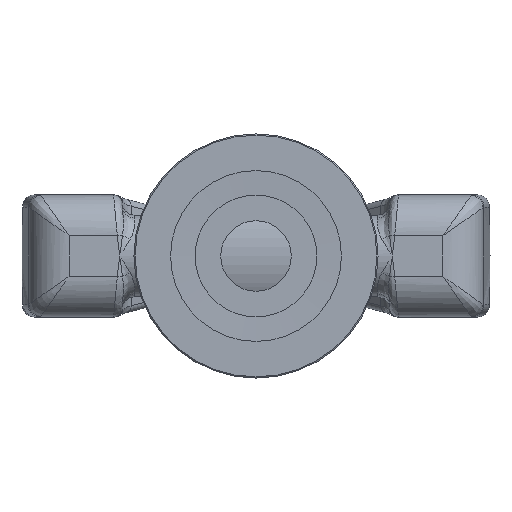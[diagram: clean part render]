
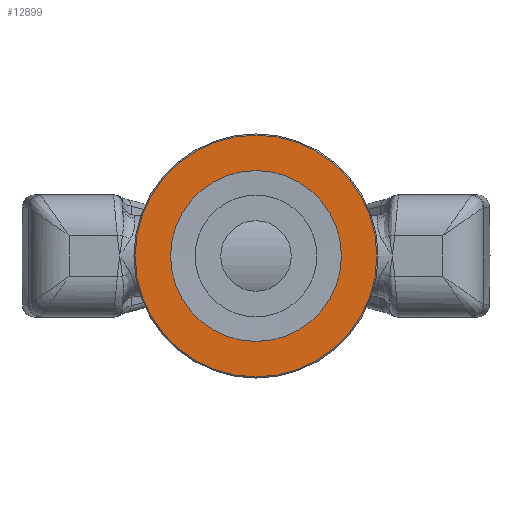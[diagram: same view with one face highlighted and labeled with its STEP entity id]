
A CAD part, front view. The second image highlights one B-rep face of the part: STEP entity #12899.
In plain terms, the highlighted planar face has unit normal (0, -1, 0) as drawn and (0, 0, -1) by its records, which use the part's own axes.
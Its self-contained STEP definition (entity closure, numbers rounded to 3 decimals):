
#273=FACE_BOUND('',#4068,.T.);
#663=PLANE('',#13933);
#3248=FACE_OUTER_BOUND('',#4067,.T.);
#4067=EDGE_LOOP('',(#12128));
#4068=EDGE_LOOP('',(#12129));
#4425=CIRCLE('',#13930,29.7);
#4427=CIRCLE('',#13934,21.);
#6333=VERTEX_POINT('',#43812);
#6335=VERTEX_POINT('',#43818);
#8268=EDGE_CURVE('',#6333,#6333,#4425,.T.);
#8270=EDGE_CURVE('',#6335,#6335,#4427,.T.);
#12128=ORIENTED_EDGE('',*,*,#8268,.F.);
#12129=ORIENTED_EDGE('',*,*,#8270,.F.);
#12899=ADVANCED_FACE('',(#3248,#273),#663,.F.);
#13930=AXIS2_PLACEMENT_3D('',#43813,#16534,#16535);
#13933=AXIS2_PLACEMENT_3D('',#43817,#16540,#16541);
#13934=AXIS2_PLACEMENT_3D('',#43819,#16542,#16543);
#16534=DIRECTION('center_axis',(0.,0.,1.));
#16535=DIRECTION('ref_axis',(-1.,0.,0.));
#16540=DIRECTION('center_axis',(0.,0.,1.));
#16541=DIRECTION('ref_axis',(1.,0.,0.));
#16542=DIRECTION('center_axis',(0.,0.,-1.));
#16543=DIRECTION('ref_axis',(-1.,0.,0.));
#43812=CARTESIAN_POINT('',(29.7,0.,0.));
#43813=CARTESIAN_POINT('Origin',(0.,0.,0.));
#43817=CARTESIAN_POINT('Origin',(0.,0.,0.));
#43818=CARTESIAN_POINT('',(21.,0.,0.));
#43819=CARTESIAN_POINT('Origin',(0.,0.,0.));
